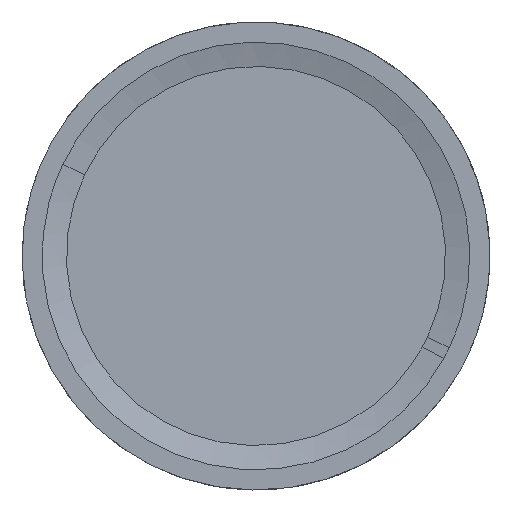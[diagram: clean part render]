
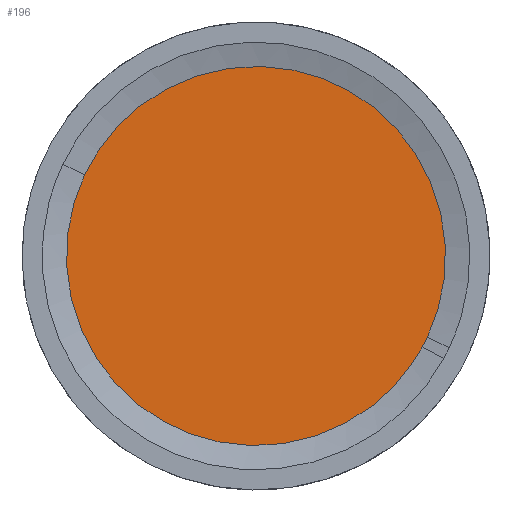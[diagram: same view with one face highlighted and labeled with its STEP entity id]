
A CAD part, left-side view. The second image highlights one B-rep face of the part: STEP entity #196.
In plain terms, the highlighted free-form (B-spline) face has degree [1, 1] with [2, 2] control points.
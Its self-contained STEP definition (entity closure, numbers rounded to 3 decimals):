
#196=ADVANCED_FACE('',(#388),#389,.T.);
#388=FACE_OUTER_BOUND('',#2222,.T.);
#389=B_SPLINE_SURFACE_WITH_KNOTS('',1,1,((#2223,#2224),(#2225,#2226)),.UNSPECIFIED.,.F.,.F.,.F.,(2,2),(2,2),(0.0,64.),(0.0,64.),.UNSPECIFIED.);
#2222=EDGE_LOOP('',(#2551,#2552,#2553));
#2223=CARTESIAN_POINT('',(-12.0,-32.,-32.0));
#2224=CARTESIAN_POINT('',(-12.0,32.0,-32.0));
#2225=CARTESIAN_POINT('',(-12.0,-32.,32.));
#2226=CARTESIAN_POINT('',(-12.0,32.0,32.));
#2551=ORIENTED_EDGE('',*,*,#2757,.T.);
#2552=ORIENTED_EDGE('',*,*,#2573,.T.);
#2553=ORIENTED_EDGE('',*,*,#2577,.T.);
#2573=EDGE_CURVE('',#2764,#2768,#2770,.T.);
#2577=EDGE_CURVE('',#2768,#2774,#2776,.T.);
#2757=EDGE_CURVE('',#2774,#2764,#3028,.T.);
#2764=VERTEX_POINT('',#3035);
#2768=VERTEX_POINT('',#3053);
#2770=(B_SPLINE_CURVE(2,(#3057,#3058,#3059,#3060,#3061,#3062,#3063),.UNSPECIFIED.,.F.,.F.)B_SPLINE_CURVE_WITH_KNOTS((3,2,2,3),(-3.078,-1.571,0.,0.063),.UNSPECIFIED.)RATIONAL_B_SPLINE_CURVE((0.977,0.719,1.0,0.707,1.0,0.988,0.977))BOUNDED_CURVE()REPRESENTATION_ITEM('')GEOMETRIC_REPRESENTATION_ITEM()CURVE());
#2774=VERTEX_POINT('',#3084);
#2776=(B_SPLINE_CURVE(2,(#3088,#3089,#3090,#3091,#3092),.UNSPECIFIED.,.F.,.F.)B_SPLINE_CURVE_WITH_KNOTS((3,2,3),(0.063,1.571,3.142),.UNSPECIFIED.)RATIONAL_B_SPLINE_CURVE((0.977,0.719,1.0,0.707,1.0))BOUNDED_CURVE()REPRESENTATION_ITEM('')GEOMETRIC_REPRESENTATION_ITEM()CURVE());
#3028=(B_SPLINE_CURVE(2,(#4364,#4365,#4366),.UNSPECIFIED.,.F.,.F.)B_SPLINE_CURVE_WITH_KNOTS((3,3),(-3.142,-3.078),.UNSPECIFIED.)RATIONAL_B_SPLINE_CURVE((1.0,0.988,0.977))BOUNDED_CURVE()REPRESENTATION_ITEM('')GEOMETRIC_REPRESENTATION_ITEM()CURVE());
#3035=CARTESIAN_POINT('',(-12.0,-28.919,-13.7));
#3053=CARTESIAN_POINT('',(-12.0,28.919,13.7));
#3057=CARTESIAN_POINT('',(-12.0,-28.919,-13.7));
#3058=CARTESIAN_POINT('',(-12.0,-41.852,13.6));
#3059=CARTESIAN_POINT('',(-12.0,-15.342,28.083));
#3060=CARTESIAN_POINT('',(-12.0,12.741,43.424));
#3061=CARTESIAN_POINT('',(-12.0,28.083,15.342));
#3062=CARTESIAN_POINT('',(-12.0,28.525,14.533));
#3063=CARTESIAN_POINT('',(-12.0,28.919,13.7));
#3084=CARTESIAN_POINT('',(-12.0,-28.083,-15.342));
#3088=CARTESIAN_POINT('',(-12.0,28.919,13.7));
#3089=CARTESIAN_POINT('',(-12.0,41.852,-13.6));
#3090=CARTESIAN_POINT('',(-12.0,15.342,-28.083));
#3091=CARTESIAN_POINT('',(-12.0,-12.741,-43.424));
#3092=CARTESIAN_POINT('',(-12.0,-28.083,-15.342));
#4364=CARTESIAN_POINT('',(-12.0,-28.083,-15.342));
#4365=CARTESIAN_POINT('',(-12.0,-28.525,-14.533));
#4366=CARTESIAN_POINT('',(-12.0,-28.919,-13.7));
